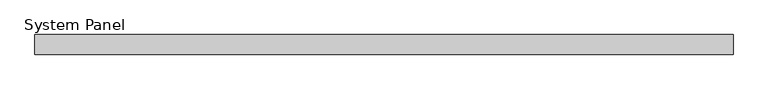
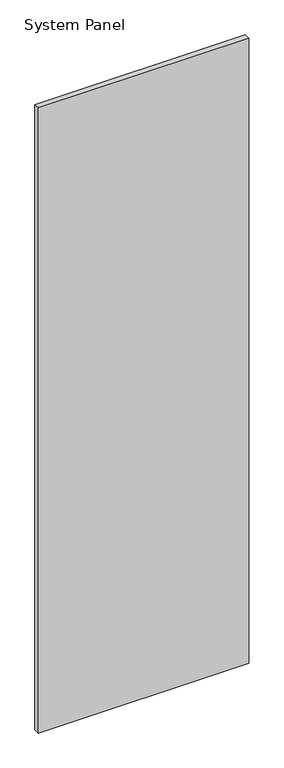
"""IFC4 building model written with IfcOpenShell, lengths in millimetres: plate geometry, System Panel : Panel_Glazed_Generic Showcase_30mm."""

from ifc_helpers import new_model, si_unit, origin, origin_with_axes, place, context, project, spatial, polyline, outline, extrude, source, transform, mapped, element, save


def system_panel_6dfe1f31(model_context):
    return source(origin(), model_context, "Body", "SweptSolid", [
        extrude(outline(polyline([(525.0, -30.0), (-525.0, -30.0), (-525.0, 0.0), (525.0, 0.0), (525.0, -30.0)])), origin_with_axes(), (0.0, 0.0, 1.0), 3300.0),
    ])


if __name__ == "__main__":
    model = new_model("IFC4")
    model_context = context("Model", 3, world=origin())
    ifc_project = project(units=[si_unit("LENGTHUNIT", "METRE", prefix="MILLI")], contexts=[model_context])
    site = spatial("IfcSite", under=ifc_project)
    building = spatial("IfcBuilding", under=site)
    placement = place(None, origin())
    system_panel_shape = system_panel_6dfe1f31(model_context)
    element("IfcPlate", 1, ObjectType="System Panel : Panel_Glazed_Generic Showcase_30mm", at=placement, inside=building, context=model_context, shape_type="MappedRepresentation", body=[
        mapped(system_panel_shape, transform((0.0, 0.0, 0.0), x_axis=(1.0, 0.0, 0.0), y_axis=(0.0, 1.0, 0.0), z_axis=(0.0, 0.0, 1.0))),
    ])
    save(model, "model.ifc")
